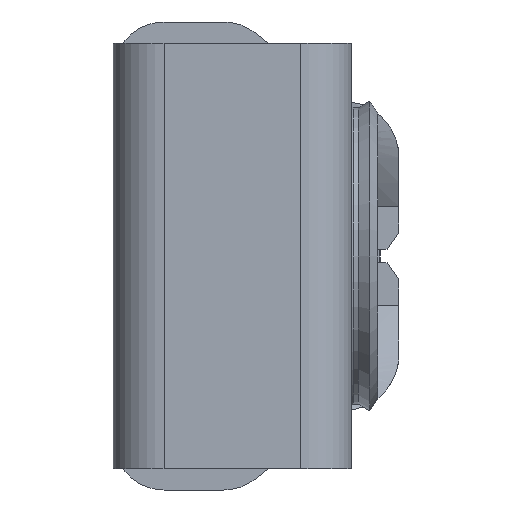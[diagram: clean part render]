
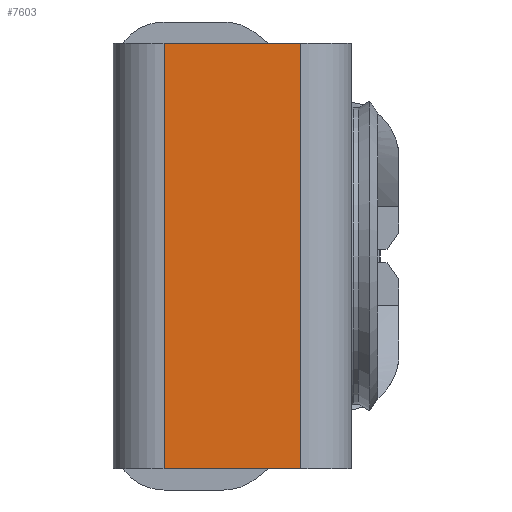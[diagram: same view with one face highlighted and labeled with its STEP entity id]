
A CAD part, left-side view. The second image highlights one B-rep face of the part: STEP entity #7603.
In plain terms, the highlighted planar face has unit normal (-1, 0, 0).
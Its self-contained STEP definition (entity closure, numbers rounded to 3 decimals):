
#13 = ORIENTED_EDGE ( 'NONE', *, *, #9544, .T. ) ;
#42 = VERTEX_POINT ( 'NONE', #928 ) ;
#290 = CARTESIAN_POINT ( 'NONE',  ( -1.42, 1.48, -1.375 ) ) ;
#928 = CARTESIAN_POINT ( 'NONE',  ( -1.42, 1.48, 1.25 ) ) ;
#1124 = DIRECTION ( 'NONE',  ( -1., 0., 0. ) ) ;
#1572 = EDGE_LOOP ( 'NONE', ( #10885, #13, #11256, #7309 ) ) ;
#2092 = AXIS2_PLACEMENT_3D ( 'NONE', #8945, #1124, #4099 ) ;
#2756 = DIRECTION ( 'NONE',  ( 0., 1., 0. ) ) ;
#3335 = EDGE_CURVE ( 'NONE', #5211, #42, #11271, .T. ) ;
#3419 = EDGE_CURVE ( 'NONE', #5167, #5546, #4852, .T. ) ;
#4099 = DIRECTION ( 'NONE',  ( 0., 0., 1. ) ) ;
#4159 = DIRECTION ( 'NONE',  ( 0., 0., 1. ) ) ;
#4852 = LINE ( 'NONE', #5869, #9380 ) ;
#5167 = VERTEX_POINT ( 'NONE', #12194 ) ;
#5211 = VERTEX_POINT ( 'NONE', #11550 ) ;
#5546 = VERTEX_POINT ( 'NONE', #10462 ) ;
#5662 = LINE ( 'NONE', #9566, #6266 ) ;
#5869 = CARTESIAN_POINT ( 'NONE',  ( -1.42, 0.38, -1.25 ) ) ;
#6079 = LINE ( 'NONE', #290, #8076 ) ;
#6121 = VECTOR ( 'NONE', #10501, 1000. ) ;
#6266 = VECTOR ( 'NONE', #6694, 1000. ) ;
#6694 = DIRECTION ( 'NONE',  ( 0., 0., 1. ) ) ;
#7309 = ORIENTED_EDGE ( 'NONE', *, *, #8862, .F. ) ;
#7603 = ADVANCED_FACE ( 'NONE', ( #7853 ), #9856, .T. ) ;
#7853 = FACE_OUTER_BOUND ( 'NONE', #1572, .T. ) ;
#8076 = VECTOR ( 'NONE', #4159, 1000. ) ;
#8365 = CARTESIAN_POINT ( 'NONE',  ( -1.42, 0.38, 1.25 ) ) ;
#8862 = EDGE_CURVE ( 'NONE', #5546, #42, #6079, .T. ) ;
#8945 = CARTESIAN_POINT ( 'NONE',  ( -1.42, 0.68, -1.375 ) ) ;
#9380 = VECTOR ( 'NONE', #2756, 1000. ) ;
#9544 = EDGE_CURVE ( 'NONE', #5167, #5211, #5662, .T. ) ;
#9566 = CARTESIAN_POINT ( 'NONE',  ( -1.42, 0.68, -1.375 ) ) ;
#9856 = PLANE ( 'NONE',  #2092 ) ;
#10462 = CARTESIAN_POINT ( 'NONE',  ( -1.42, 1.48, -1.25 ) ) ;
#10501 = DIRECTION ( 'NONE',  ( 0., 1., 0. ) ) ;
#10885 = ORIENTED_EDGE ( 'NONE', *, *, #3419, .F. ) ;
#11256 = ORIENTED_EDGE ( 'NONE', *, *, #3335, .T. ) ;
#11271 = LINE ( 'NONE', #8365, #6121 ) ;
#11550 = CARTESIAN_POINT ( 'NONE',  ( -1.42, 0.68, 1.25 ) ) ;
#12194 = CARTESIAN_POINT ( 'NONE',  ( -1.42, 0.68, -1.25 ) ) ;
